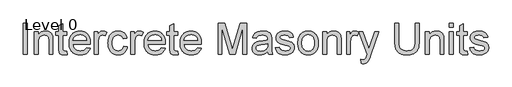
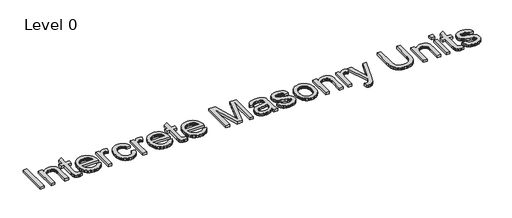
# One storey, part 10 of 14: 1 proxy.
"""IFC4 building model written with IfcOpenShell, lengths in millimetres."""

from ifc_helpers import new_model, si_unit, origin, origin_with_axes, place, context, project, spatial, polyline, outline, extrude, element, save

model = new_model("IFC4")

# Units and contexts
model_context = context("Model", 3, world=origin())
ifc_project = project(units=[si_unit("LENGTHUNIT", "METRE", prefix="MILLI")], contexts=[model_context])

# Site, building, storey
site = spatial("IfcSite", under=ifc_project)
building = spatial("IfcBuilding", under=site)
storey = spatial("IfcBuildingStorey", under=building, Name="Level 0", Elevation=0.0)

# Proxy
placement = place(None, origin())
element("IfcBuildingElementProxy", 1, Name="2000", ObjectType="2000", at=placement, inside=storey, context=model_context, shape_type="SweptSolid", body=[
    extrude(outline(polyline([(-39929.3330884, 28383.8987062), (-39929.3330884, 30341.5457651), (-39684.627206, 30341.5457651), (-39684.627206, 28383.8987062), (-39929.3330884, 28383.8987062)])), origin_with_axes(), (0.0, 0.0, 1.0), 150.0),
    extrude(outline(polyline([(-39225.8036766, 28383.8987062), (-39225.8036766, 29821.5457651), (-38981.0977943, 29821.5457651), (-38981.0977943, 29620.810471), (-38940.7267005, 29675.0269232), (-38896.0840075, 29722.0145151), (-38847.1697152, 29761.7732467), (-38793.9838237, 29794.303118), (-38736.5263329, 29819.604129), (-38674.7972428, 29837.6762798), (-38608.7965534, 29848.5195702), (-38538.5242648, 29852.1340004), (-38476.9445314, 29849.2215463), (-38417.9038604, 29840.4841842), (-38361.402252, 29825.921914), (-38307.439706, 29805.5347357), (-38258.0624082, 29780.4129526), (-38215.3165443, 29751.646868), (-38179.2021141, 29719.236482), (-38149.7191178, 29683.1817945), (-38125.5084101, 29643.5276125), (-38105.2108457, 29600.318743), (-38088.8264248, 29553.555186), (-38076.3551472, 29503.2369415), (-38066.6768384, 29410.396868), (-38063.4507354, 29266.6560592), (-38063.4507354, 28383.8987062), (-38308.1566178, 28383.8987062), (-38308.1566178, 29233.678118), (-38309.9190259, 29301.5158937), (-38315.2062501, 29360.2130445), (-38324.0182906, 29409.7695702), (-38336.3551472, 29450.185471), (-38353.1577667, 29484.2238441), (-38375.3670957, 29514.6477871), (-38402.9831343, 29541.4573), (-38436.0058825, 29564.6523827), (-38473.3002299, 29583.3667669), (-38513.7310663, 29596.7341842), (-38557.2983917, 29604.7546346), (-38604.002206, 29607.428118), (-38678.3071233, 29601.423982), (-38713.4768728, 29593.9188119), (-38747.3248163, 29583.4115739), (-38779.8509537, 29569.9022678), (-38811.0552851, 29553.3908937), (-38840.9378103, 29533.8774516), (-38869.4985295, 29511.3619415), (-38895.6546072, 29484.6495105), (-38918.3232079, 29452.5453055), (-38937.5043315, 29415.0493266), (-38953.1979781, 29372.1615739), (-38965.4041477, 29323.8820472), (-38974.1228402, 29270.2107467), (-38979.3540557, 29211.1476722), (-38981.0977943, 29146.6928239), (-38981.0977943, 28383.8987062), (-39225.8036766, 28383.8987062)])), origin_with_axes(), (0.0, 0.0, 1.0), 150.0),
    extrude(outline(polyline([(-37206.9801472, 28587.9795886), (-37176.3919119, 28376.7295886), (-37273.2944854, 28359.1652504), (-37359.4433825, 28353.310471), (-37421.90432, 28355.8495335), (-37476.8974266, 28363.466721), (-37524.4227023, 28376.1620335), (-37564.4801472, 28393.935471), (-37598.1152575, 28415.8311511), (-37626.3735295, 28440.8931915), (-37649.2549634, 28469.1215923), (-37666.759559, 28500.5163533), (-37679.7237134, 28542.6050482), (-37688.9838237, 28602.9152504), (-37694.5398898, 28681.4469599), (-37696.3919119, 28778.2001768), (-37696.3919119, 29576.8398827), (-37879.9213237, 29576.8398827), (-37879.9213237, 29821.5457651), (-37696.3919119, 29821.5457651), (-37696.3919119, 30170.9207651), (-37451.6860295, 30314.7810592), (-37451.6860295, 29821.5457651), (-37206.9801472, 29821.5457651), (-37206.9801472, 29576.8398827), (-37451.6860295, 29576.8398827), (-37451.6860295, 28785.3692945), (-37448.4599266, 28704.8362062), (-37444.4272979, 28677.6533018), (-37438.7816178, 28659.1928239), (-37421.8744487, 28633.9216842), (-37396.9617648, 28614.5053239), (-37361.6538604, 28602.138596), (-37313.5610295, 28598.0163533), (-37266.8422795, 28595.5071621), (-37206.9801472, 28587.9795886)])), origin_with_axes(), (0.0, 0.0, 1.0), 150.0),
    extrude(outline(polyline([(-35955.7301472, 28812.1340004), (-35715.8036766, 28781.5457651), (-35732.5876265, 28732.0713855), (-35752.5902115, 28685.4497173), (-35775.8114317, 28641.6807605), (-35802.2512869, 28600.7645151), (-35831.9097773, 28562.7009811), (-35864.7869027, 28527.4901585), (-35900.8826633, 28495.1320472), (-35940.197059, 28465.6266474), (-35982.5359261, 28439.3025436), (-36027.7051012, 28416.4883202), (-36075.7045842, 28397.1839774), (-36126.5343751, 28381.3895151), (-36180.1944739, 28369.1049333), (-36236.6848807, 28360.330232), (-36296.0055953, 28355.0654112), (-36358.1566178, 28353.310471), (-36436.1431757, 28356.3386764), (-36509.9925553, 28365.4232926), (-36579.7047566, 28380.5643198), (-36645.2797795, 28401.7617577), (-36706.7176242, 28429.0156065), (-36764.0182906, 28462.3258662), (-36817.1817786, 28501.6925367), (-36866.2080884, 28547.115618), (-36910.2309514, 28598.0051516), (-36948.3840994, 28653.7711787), (-36980.6675323, 28714.4136994), (-37007.0812501, 28779.9327136), (-37027.6252529, 28850.3282214), (-37042.2995406, 28925.6002228), (-37051.1041132, 29005.7487177), (-37054.0389707, 29090.7737062), (-37051.0742419, 29178.6924792), (-37042.1800553, 29261.5480629), (-37027.356411, 29339.3404572), (-37006.603309, 29412.0696621), (-36979.9207492, 29479.7356778), (-36947.3087318, 29542.338504), (-36908.7672566, 29599.878141), (-36864.2963237, 29652.3545886), (-36815.0982538, 29699.1778882), (-36762.3753678, 29739.7580812), (-36706.1276656, 29774.0951676), (-36646.3551472, 29802.1891474), (-36583.0578126, 29824.0400206), (-36516.2356619, 29839.6477871), (-36445.888695, 29849.0124471), (-36372.0169119, 29852.1340004), (-36300.5609721, 29849.0199149), (-36232.4431527, 29839.6776585), (-36167.6634537, 29824.1072311), (-36106.2218751, 29802.3086327), (-36048.118417, 29774.2818634), (-35993.3530792, 29740.0269232), (-35941.9258618, 29699.5438119), (-35893.8367648, 29652.8325298), (-35850.3179804, 29600.4755675), (-35812.6017005, 29543.0554158), (-35780.6879252, 29480.5720748), (-35754.5766545, 29413.0255445), (-35734.2678885, 29340.4158248), (-35719.761627, 29262.7429158), (-35711.0578701, 29180.0068175), (-35708.1566178, 29092.2075298), (-35709.5904413, 29026.2516474), (-36809.3330884, 29026.2516474), (-36803.9973232, 28975.9109994), (-36795.1591454, 28928.6022908), (-36782.8185548, 28884.3255215), (-36766.9755516, 28843.0806915), (-36747.6301357, 28804.8678009), (-36724.7823071, 28769.6868496), (-36698.4320659, 28737.5378377), (-36668.5794119, 28708.4207651), (-36636.0009997, 28682.5447311), (-36601.4734836, 28660.1188349), (-36564.9968636, 28641.1430766), (-36526.5711398, 28625.6174562), (-36486.1963122, 28613.5419737), (-36443.8723807, 28604.916629), (-36399.5993453, 28599.7414222), (-36353.377206, 28598.0163533), (-36285.6887869, 28601.2125849), (-36223.1382354, 28610.8012798), (-36165.7255516, 28626.7824379), (-36113.4507354, 28649.1560592), (-36066.3137869, 28678.5195702), (-36024.314706, 28715.4703974), (-35987.4534928, 28760.0085408), (-35955.7301472, 28812.1340004)]), holes=[polyline([(-36809.3330884, 29270.9575298), (-35952.8625001, 29270.9575298), (-35965.4383273, 29340.1992577), (-35985.9599266, 29400.240618), (-36014.4272979, 29451.0816107), (-36050.8404413, 29492.7222357), (-36083.0566637, 29519.6064268), (-36117.5729781, 29542.9060592), (-36154.3893843, 29562.6211327), (-36193.5058825, 29578.7516474), (-36234.9224726, 29591.2976033), (-36278.6391545, 29600.2590004), (-36324.6559284, 29605.6358386), (-36372.9727943, 29607.428118), (-36459.0171417, 29601.7077596), (-36537.9222428, 29584.5466842), (-36574.697576, 29571.6758777), (-36609.6880976, 29555.9448919), (-36642.8938076, 29537.3537269), (-36674.314706, 29515.9023827), (-36703.1367993, 29492.0538648), (-36728.5460939, 29466.2711787), (-36750.5425898, 29438.5543244), (-36769.1262869, 29408.9033018), (-36784.2971853, 29377.3181111), (-36796.0552851, 29343.7987522), (-36804.4005861, 29308.3452251), (-36809.3330884, 29270.9575298)])]), origin_with_axes(), (0.0, 0.0, 1.0), 150.0),
    extrude(outline(polyline([(-35463.4507354, 28383.8987062), (-35463.4507354, 29821.5457651), (-35249.3330884, 29821.5457651), (-35249.3330884, 29608.8619415), (-35209.0068016, 29676.8490739), (-35170.2338237, 29732.1707651), (-35133.0141545, 29774.8270151), (-35097.3477943, 29804.8178239), (-35061.6216913, 29825.5186511), (-35024.2227943, 29840.3049562), (-34985.1511031, 29849.1767393), (-34944.4066178, 29852.1340004), (-34883.7080884, 29847.4143312), (-34822.5316178, 29833.2553239), (-34760.877206, 29809.6569783), (-34698.7448531, 29776.6192945), (-34780.4727943, 29557.2442945), (-34823.4875001, 29579.1997173), (-34866.502206, 29594.8821621), (-34909.5169119, 29604.291629), (-34952.5316178, 29607.428118), (-34990.0350645, 29604.4111143), (-35025.5968751, 29595.3601033), (-35059.2170498, 29580.2750849), (-35090.8955884, 29559.1560592), (-35119.437638, 29532.6900665), (-35143.6483457, 29501.5641474), (-35163.5277115, 29465.7783018), (-35179.0757354, 29425.3325298), (-35196.4309744, 29358.5402504), (-35208.8275737, 29288.6413533), (-35216.2655332, 29215.6358386), (-35218.7448531, 29139.5237062), (-35218.7448531, 28383.8987062), (-35463.4507354, 28383.8987062)])), origin_with_axes(), (0.0, 0.0, 1.0), 150.0),
    extrude(outline(polyline([(-33628.1566178, 28903.8987062), (-33383.4507354, 28873.310471), (-33394.8839845, 28813.915078), (-33410.0660847, 28757.8428698), (-33428.997036, 28705.0938464), (-33451.6768384, 28655.6680077), (-33478.1054919, 28609.5653538), (-33508.2829965, 28566.7858846), (-33542.2093522, 28527.3296001), (-33579.884559, 28491.1965004), (-33620.5543659, 28458.8794622), (-33663.4645222, 28430.8713625), (-33708.6150277, 28407.1722012), (-33756.0058825, 28387.7819783), (-33805.6370865, 28372.7006938), (-33857.5086398, 28361.9283478), (-33911.6205424, 28355.4649402), (-33967.9727943, 28353.310471), (-34038.3683021, 28356.3162729), (-34105.2165902, 28365.3336787), (-34168.5176587, 28380.3626883), (-34228.2715075, 28401.4033018), (-34284.4781366, 28428.4555192), (-34337.1375461, 28461.5193404), (-34386.2497359, 28500.5947655), (-34431.814706, 28545.6817945), (-34472.8691063, 28596.3846323), (-34508.4495865, 28652.3074838), (-34538.5561467, 28713.4503492), (-34563.1887869, 28779.8132283), (-34582.347507, 28851.3961212), (-34596.0323071, 28928.1990279), (-34604.2431872, 29010.2219484), (-34606.9801472, 29097.4648827), (-34602.3052851, 29209.9752228), (-34588.2806987, 29315.2268312), (-34564.906388, 29413.2197081), (-34532.1823531, 29503.9538533), (-34512.2581803, 29546.1433639), (-34489.884559, 29585.6071162), (-34465.0614891, 29622.3451102), (-34437.7889707, 29656.357346), (-34408.0670038, 29687.6438234), (-34375.8955884, 29716.2045426), (-34341.2747244, 29742.0395036), (-34304.2044119, 29765.1487062), (-34225.9564799, 29803.2047724), (-34144.392831, 29830.3876768), (-34059.5134652, 29846.6974195), (-33971.3183825, 29852.1340004), (-33915.7390511, 29850.2670426), (-33862.7510571, 29844.6661695), (-33812.3544004, 29835.3313809), (-33764.549081, 29822.2626768), (-33719.3350989, 29805.4600573), (-33676.7124542, 29784.9235224), (-33636.6811467, 29760.6530721), (-33599.2411766, 29732.6487062), (-33564.7211284, 29701.2091382), (-33533.4495865, 29666.6330812), (-33505.4265511, 29628.9205353), (-33480.6520222, 29588.0715004), (-33459.1259997, 29544.0859765), (-33440.8484836, 29496.9639636), (-33425.8194739, 29446.7054618), (-33414.0389707, 29393.310471), (-33658.7448531, 29362.7222357), (-33677.8475645, 29419.8810132), (-33703.1336398, 29469.482346), (-33734.6030792, 29511.5262338), (-33772.2558825, 29546.0126768), (-33815.1361674, 29572.8819323), (-33862.2880516, 29592.0742577), (-33913.7115351, 29603.5896529), (-33969.4066178, 29607.428118), (-34011.9993912, 29605.5387568), (-34052.5534468, 29599.8706732), (-34091.0687846, 29590.4238671), (-34127.5454045, 29577.1983386), (-34161.9833067, 29560.1940877), (-34194.3824909, 29539.4111143), (-34224.7429574, 29514.8494186), (-34253.064706, 29486.5090004), (-34278.6606964, 29454.0836787), (-34300.843888, 29417.2672724), (-34319.6142809, 29376.0597816), (-34334.9718751, 29330.4612062), (-34346.9166706, 29280.4715463), (-34355.4486674, 29226.0908018), (-34360.5678655, 29167.3189728), (-34362.2742648, 29104.1560592), (-34360.6052046, 29039.9961902), (-34355.598024, 28980.3842301), (-34347.252723, 28925.3201791), (-34335.5693016, 28874.8040371), (-34320.5477598, 28828.8358041), (-34302.1880976, 28787.4154801), (-34280.4903149, 28750.5430652), (-34255.4544119, 28718.2185592), (-34227.7226219, 28690.0461672), (-34197.9371784, 28665.6300941), (-34166.0980815, 28644.97034), (-34132.205331, 28628.0669048), (-34096.2589271, 28614.9197885), (-34058.2588696, 28605.5289912), (-34018.2051587, 28599.8945128), (-33976.0977943, 28598.0163533), (-33909.8880057, 28602.7061511), (-33849.3836398, 28616.7755445), (-33794.5846968, 28640.2245335), (-33745.4911766, 28673.053118), (-33723.4274703, 28693.0743726), (-33703.4771601, 28715.619754), (-33669.9167281, 28768.2828974), (-33644.8098807, 28831.0425482), (-33628.1566178, 28903.8987062)])), origin_with_axes(), (0.0, 0.0, 1.0), 150.0),
    extrude(outline(polyline([(-33169.3330884, 28383.8987062), (-33169.3330884, 29821.5457651), (-32955.2154413, 29821.5457651), (-32955.2154413, 29608.8619415), (-32914.8891545, 29676.8490739), (-32876.1161766, 29732.1707651), (-32838.8965075, 29774.8270151), (-32803.2301472, 29804.8178239), (-32767.5040443, 29825.5186511), (-32730.1051472, 29840.3049562), (-32691.033456, 29849.1767393), (-32650.2889707, 29852.1340004), (-32589.5904413, 29847.4143312), (-32528.4139707, 29833.2553239), (-32466.759559, 29809.6569783), (-32404.627206, 29776.6192945), (-32486.3551472, 29557.2442945), (-32529.3698531, 29579.1997173), (-32572.384559, 29594.8821621), (-32615.3992648, 29604.291629), (-32658.4139707, 29607.428118), (-32695.9174174, 29604.4111143), (-32731.4792281, 29595.3601033), (-32765.0994027, 29580.2750849), (-32796.7779413, 29559.1560592), (-32825.3199909, 29532.6900665), (-32849.5306987, 29501.5641474), (-32869.4100645, 29465.7783018), (-32884.9580884, 29425.3325298), (-32902.3133273, 29358.5402504), (-32914.7099266, 29288.6413533), (-32922.1478862, 29215.6358386), (-32924.627206, 29139.5237062), (-32924.627206, 28383.8987062), (-33169.3330884, 28383.8987062)])), origin_with_axes(), (0.0, 0.0, 1.0), 150.0),
    extrude(outline(polyline([(-31245.1419119, 28812.1340004), (-31005.2154413, 28781.5457651), (-31021.9993912, 28732.0713855), (-31042.0019762, 28685.4497173), (-31065.2231964, 28641.6807605), (-31091.6630516, 28600.7645151), (-31121.321542, 28562.7009811), (-31154.1986674, 28527.4901585), (-31190.294428, 28495.1320472), (-31229.6088237, 28465.6266474), (-31271.9476909, 28439.3025436), (-31317.1168659, 28416.4883202), (-31365.1163489, 28397.1839774), (-31415.9461398, 28381.3895151), (-31469.6062386, 28369.1049333), (-31526.0966454, 28360.330232), (-31585.41736, 28355.0654112), (-31647.5683825, 28353.310471), (-31725.5549404, 28356.3386764), (-31799.40432, 28365.4232926), (-31869.1165213, 28380.5643198), (-31934.6915443, 28401.7617577), (-31996.1293889, 28429.0156065), (-32053.4300553, 28462.3258662), (-32106.5935433, 28501.6925367), (-32155.6198531, 28547.115618), (-32199.6427161, 28598.0051516), (-32237.7958641, 28653.7711787), (-32270.079297, 28714.4136994), (-32296.4930148, 28779.9327136), (-32317.0370176, 28850.3282214), (-32331.7113053, 28925.6002228), (-32340.5158779, 29005.7487177), (-32343.4507354, 29090.7737062), (-32340.4860066, 29178.6924792), (-32331.59182, 29261.5480629), (-32316.7681757, 29339.3404572), (-32296.0150737, 29412.0696621), (-32269.3325139, 29479.7356778), (-32236.7204965, 29542.338504), (-32198.1790213, 29599.878141), (-32153.7080884, 29652.3545886), (-32104.5100185, 29699.1778882), (-32051.7871325, 29739.7580812), (-31995.5394303, 29774.0951676), (-31935.7669119, 29802.1891474), (-31872.4695773, 29824.0400206), (-31805.6474266, 29839.6477871), (-31735.3004597, 29849.0124471), (-31661.4286766, 29852.1340004), (-31589.9727368, 29849.0199149), (-31521.8549174, 29839.6776585), (-31457.0752184, 29824.1072311), (-31395.6336398, 29802.3086327), (-31337.5301817, 29774.2818634), (-31282.7648439, 29740.0269232), (-31231.3376265, 29699.5438119), (-31183.2485295, 29652.8325298), (-31139.7297451, 29600.4755675), (-31102.0134652, 29543.0554158), (-31070.0996899, 29480.5720748), (-31043.9884193, 29413.0255445), (-31023.6796532, 29340.4158248), (-31009.1733917, 29262.7429158), (-31000.4696348, 29180.0068175), (-30997.5683825, 29092.2075298), (-30999.002206, 29026.2516474), (-32098.7448531, 29026.2516474), (-32093.4090879, 28975.9109994), (-32084.5709101, 28928.6022908), (-32072.2303195, 28884.3255215), (-32056.3873163, 28843.0806915), (-32037.0419004, 28804.8678009), (-32014.1940718, 28769.6868496), (-31987.8438306, 28737.5378377), (-31957.9911766, 28708.4207651), (-31925.4127644, 28682.5447311), (-31890.8852483, 28660.1188349), (-31854.4086284, 28641.1430766), (-31815.9829045, 28625.6174562), (-31775.6080769, 28613.5419737), (-31733.2841454, 28604.916629), (-31689.01111, 28599.7414222), (-31642.7889707, 28598.0163533), (-31575.1005516, 28601.2125849), (-31512.5500001, 28610.8012798), (-31455.1373163, 28626.7824379), (-31402.8625001, 28649.1560592), (-31355.7255516, 28678.5195702), (-31313.7264707, 28715.4703974), (-31276.8652575, 28760.0085408), (-31245.1419119, 28812.1340004)]), holes=[polyline([(-32098.7448531, 29270.9575298), (-31242.2742648, 29270.9575298), (-31254.850092, 29340.1992577), (-31275.3716913, 29400.240618), (-31303.8390626, 29451.0816107), (-31340.252206, 29492.7222357), (-31372.4684284, 29519.6064268), (-31406.9847428, 29542.9060592), (-31443.801149, 29562.6211327), (-31482.9176472, 29578.7516474), (-31524.3342373, 29591.2976033), (-31568.0509193, 29600.2590004), (-31614.0676932, 29605.6358386), (-31662.384559, 29607.428118), (-31748.4289064, 29601.7077596), (-31827.3340075, 29584.5466842), (-31864.1093407, 29571.6758777), (-31899.0998623, 29555.9448919), (-31932.3055723, 29537.3537269), (-31963.7264707, 29515.9023827), (-31992.548564, 29492.0538648), (-32017.9578586, 29466.2711787), (-32039.9543545, 29438.5543244), (-32058.5380516, 29408.9033018), (-32073.70895, 29377.3181111), (-32085.4670498, 29343.7987522), (-32093.8123508, 29308.3452251), (-32098.7448531, 29270.9575298)])]), origin_with_axes(), (0.0, 0.0, 1.0), 150.0),
    extrude(outline(polyline([(-30232.8625001, 28587.9795886), (-30202.2742648, 28376.7295886), (-30299.1768384, 28359.1652504), (-30385.3257354, 28353.310471), (-30447.7866729, 28355.8495335), (-30502.7797795, 28363.466721), (-30550.3050553, 28376.1620335), (-30590.3625001, 28393.935471), (-30623.9976104, 28415.8311511), (-30652.2558825, 28440.8931915), (-30675.1373163, 28469.1215923), (-30692.6419119, 28500.5163533), (-30705.6060663, 28542.6050482), (-30714.8661766, 28602.9152504), (-30720.4222428, 28681.4469599), (-30722.2742648, 28778.2001768), (-30722.2742648, 29576.8398827), (-30905.8036766, 29576.8398827), (-30905.8036766, 29821.5457651), (-30722.2742648, 29821.5457651), (-30722.2742648, 30170.9207651), (-30477.5683825, 30314.7810592), (-30477.5683825, 29821.5457651), (-30232.8625001, 29821.5457651), (-30232.8625001, 29576.8398827), (-30477.5683825, 29576.8398827), (-30477.5683825, 28785.3692945), (-30474.3422795, 28704.8362062), (-30470.3096509, 28677.6533018), (-30464.6639707, 28659.1928239), (-30447.7568016, 28633.9216842), (-30422.8441178, 28614.5053239), (-30387.5362134, 28602.138596), (-30339.4433825, 28598.0163533), (-30292.7246325, 28595.5071621), (-30232.8625001, 28587.9795886)])), origin_with_axes(), (0.0, 0.0, 1.0), 150.0),
    extrude(outline(polyline([(-28981.6125001, 28812.1340004), (-28741.6860295, 28781.5457651), (-28758.4699795, 28732.0713855), (-28778.4725645, 28685.4497173), (-28801.6937846, 28641.6807605), (-28828.1336398, 28600.7645151), (-28857.7921302, 28562.7009811), (-28890.6692557, 28527.4901585), (-28926.7650162, 28495.1320472), (-28966.0794119, 28465.6266474), (-29008.4182791, 28439.3025436), (-29053.5874542, 28416.4883202), (-29101.5869372, 28397.1839774), (-29152.4167281, 28381.3895151), (-29206.0768269, 28369.1049333), (-29262.5672336, 28360.330232), (-29321.8879482, 28355.0654112), (-29384.0389707, 28353.310471), (-29462.0255286, 28356.3386764), (-29535.8749082, 28365.4232926), (-29605.5871095, 28380.5643198), (-29671.1621325, 28401.7617577), (-29732.5999772, 28429.0156065), (-29789.9006435, 28462.3258662), (-29843.0641316, 28501.6925367), (-29892.0904413, 28547.115618), (-29936.1133044, 28598.0051516), (-29974.2664523, 28653.7711787), (-30006.5498852, 28714.4136994), (-30032.9636031, 28779.9327136), (-30053.5076058, 28850.3282214), (-30068.1818935, 28925.6002228), (-30076.9864661, 29005.7487177), (-30079.9213237, 29090.7737062), (-30076.9565948, 29178.6924792), (-30068.0624082, 29261.5480629), (-30053.2387639, 29339.3404572), (-30032.4856619, 29412.0696621), (-30005.8031022, 29479.7356778), (-29973.1910847, 29542.338504), (-29934.6496095, 29599.878141), (-29890.1786766, 29652.3545886), (-29840.9806068, 29699.1778882), (-29788.2577207, 29739.7580812), (-29732.0100185, 29774.0951676), (-29672.2375001, 29802.1891474), (-29608.9401656, 29824.0400206), (-29542.1180148, 29839.6477871), (-29471.7710479, 29849.0124471), (-29397.8992648, 29852.1340004), (-29326.443325, 29849.0199149), (-29258.3255057, 29839.6776585), (-29193.5458067, 29824.1072311), (-29132.1042281, 29802.3086327), (-29074.0007699, 29774.2818634), (-29019.2354321, 29740.0269232), (-28967.8082148, 29699.5438119), (-28919.7191178, 29652.8325298), (-28876.2003333, 29600.4755675), (-28838.4840534, 29543.0554158), (-28806.5702782, 29480.5720748), (-28780.4590075, 29413.0255445), (-28760.1502414, 29340.4158248), (-28745.6439799, 29262.7429158), (-28736.940223, 29180.0068175), (-28734.0389707, 29092.2075298), (-28735.4727943, 29026.2516474), (-29835.2154413, 29026.2516474), (-29829.8796761, 28975.9109994), (-29821.0414983, 28928.6022908), (-29808.7009078, 28884.3255215), (-29792.8579045, 28843.0806915), (-29773.5124886, 28804.8678009), (-29750.6646601, 28769.6868496), (-29724.3144188, 28737.5378377), (-29694.4617648, 28708.4207651), (-29661.8833526, 28682.5447311), (-29627.3558365, 28660.1188349), (-29590.8792166, 28641.1430766), (-29552.4534928, 28625.6174562), (-29512.0786651, 28613.5419737), (-29469.7547336, 28604.916629), (-29425.4816982, 28599.7414222), (-29379.259559, 28598.0163533), (-29311.5711398, 28601.2125849), (-29249.0205884, 28610.8012798), (-29191.6079045, 28626.7824379), (-29139.3330884, 28649.1560592), (-29092.1961398, 28678.5195702), (-29050.197059, 28715.4703974), (-29013.3358457, 28760.0085408), (-28981.6125001, 28812.1340004)]), holes=[polyline([(-29835.2154413, 29270.9575298), (-28978.7448531, 29270.9575298), (-28991.3206803, 29340.1992577), (-29011.8422795, 29400.240618), (-29040.3096509, 29451.0816107), (-29076.7227943, 29492.7222357), (-29108.9390167, 29519.6064268), (-29143.455331, 29542.9060592), (-29180.2717373, 29562.6211327), (-29219.3882354, 29578.7516474), (-29260.8048255, 29591.2976033), (-29304.5215075, 29600.2590004), (-29350.5382814, 29605.6358386), (-29398.8551472, 29607.428118), (-29484.8994946, 29601.7077596), (-29563.8045957, 29584.5466842), (-29600.5799289, 29571.6758777), (-29635.5704505, 29555.9448919), (-29668.7761605, 29537.3537269), (-29700.197059, 29515.9023827), (-29729.0191523, 29492.0538648), (-29754.4284468, 29466.2711787), (-29776.4249427, 29438.5543244), (-29795.0086398, 29408.9033018), (-29810.1795383, 29377.3181111), (-29821.937638, 29343.7987522), (-29830.282939, 29308.3452251), (-29835.2154413, 29270.9575298)])]), origin_with_axes(), (0.0, 0.0, 1.0), 150.0),
    extrude(outline(polyline([(-27694.0389707, 28383.8987062), (-27694.0389707, 30341.5457651), (-27272.9727943, 30341.5457651), (-26872.4580884, 28961.7295886), (-26791.6860295, 28673.5310592), (-26704.2227943, 28985.6266474), (-26310.3992648, 30341.5457651), (-25889.3330884, 30341.5457651), (-25889.3330884, 28383.8987062), (-26134.0389707, 28383.8987062), (-26134.0389707, 30096.8398827), (-26625.8404413, 28383.8987062), (-26957.5316178, 28383.8987062), (-27449.3330884, 30096.8398827), (-27449.3330884, 28383.8987062), (-27694.0389707, 28383.8987062)])), origin_with_axes(), (0.0, 0.0, 1.0), 150.0),
    extrude(outline(polyline([(-24574.0389707, 28567.428118), (-24632.0640167, 28512.9726952), (-24690.955331, 28467.1799562), (-24750.7129137, 28430.0499011), (-24811.3367648, 28401.5825298), (-24873.5139248, 28380.463504), (-24937.931434, 28365.3784857), (-25004.5892924, 28356.3274746), (-25073.4875001, 28353.310471), (-25129.6418545, 28355.1251539), (-25182.4431527, 28360.5692026), (-25231.8913949, 28369.6426171), (-25277.986581, 28382.3453974), (-25320.7287111, 28398.6775436), (-25360.1177851, 28418.6390555), (-25396.153803, 28442.2299333), (-25428.8367648, 28469.4501768), (-25457.9052966, 28499.4932605), (-25483.098024, 28531.5526585), (-25504.4149473, 28565.6283708), (-25521.8560663, 28601.7203974), (-25535.4213811, 28639.8287384), (-25545.1108917, 28679.9533937), (-25550.924598, 28722.0943634), (-25552.8625001, 28766.2516474), (-25549.9351104, 28818.1381364), (-25541.1529413, 28867.6946621), (-25526.5159928, 28914.9212246), (-25506.0242648, 28959.8178239), (-25480.7680608, 29001.3987062), (-25451.837684, 29038.678118), (-25419.2331343, 29071.6560592), (-25382.9544119, 29100.3325298), (-25343.6586858, 29125.2452136), (-25302.0031251, 29146.9317945), (-25257.9877299, 29165.3922724), (-25211.6125001, 29180.6266474), (-25123.5518384, 29199.3858386), (-24999.884559, 29217.428118), (-24865.2843751, 29235.9483386), (-24749.6823531, 29256.1413533), (-24653.0784928, 29278.0071621), (-24575.4727943, 29301.5457651), (-24574.0389707, 29356.0310592), (-24578.2508273, 29415.3555077), (-24590.8863972, 29465.240618), (-24611.9456803, 29505.6863901), (-24641.4286766, 29536.6928239), (-24665.519899, 29553.2714085), (-24692.3891545, 29567.6395151), (-24754.4617648, 29589.7442945), (-24827.6465075, 29603.0071621), (-24911.9433825, 29607.428118), (-24990.3257354, 29604.4857926), (-25057.7154413, 29595.6588165), (-25114.1125001, 29580.9471897), (-25159.5169119, 29560.3509121), (-25196.826195, 29532.2569323), (-25228.9378678, 29495.0521989), (-25255.8519303, 29448.7367118), (-25277.5683825, 29393.310471), (-25522.2742648, 29423.8987062), (-25503.6494946, 29494.3950298), (-25479.7972428, 29557.7222357), (-25450.7175093, 29613.8803239), (-25416.4102943, 29662.8692945), (-25375.396967, 29705.6749011), (-25326.1988972, 29743.2828974), (-25268.8160847, 29775.6932835), (-25203.2485295, 29802.9060592), (-25130.8255057, 29824.4432835), (-25052.8762869, 29839.8270151), (-24969.4008733, 29849.057254), (-24880.3992648, 29852.1340004), (-24793.3990351, 29849.4157099), (-24714.9718751, 29841.2608386), (-24645.1177851, 29827.6693864), (-24583.8367648, 29808.6413533), (-24530.621002, 29785.5060132), (-24484.962684, 29759.5926401), (-24446.8618108, 29730.9012338), (-24416.3183825, 29699.4317945), (-24391.5550553, 29664.4076676), (-24370.7944854, 29625.0521989), (-24354.0366729, 29581.3653882), (-24341.2816178, 29533.3472357), (-24332.3202207, 29448.7516474), (-24329.3330884, 29319.2295886), (-24329.3330884, 29014.7810592), (-24326.2264707, 28749.5834489), (-24316.9066178, 28589.6523827), (-24298.5058825, 28484.5650665), (-24284.8248163, 28433.6792669), (-24268.1566178, 28383.8987062), (-24512.8625001, 28383.8987062), (-24534.6088237, 28424.7626768), (-24552.0536766, 28468.9722357), (-24565.197059, 28516.5273827), (-24574.0389707, 28567.428118)]), holes=[polyline([(-24574.0389707, 29056.8398827), (-24648.0003678, 29035.6611143), (-24738.4507354, 29016.0953974), (-24845.3900737, 28998.142732), (-24968.8183825, 28981.803118), (-25095.7715075, 28963.0439268), (-25179.3514707, 28942.1340004), (-25208.5208182, 28929.8568864), (-25234.1354781, 28915.0108386), (-25256.1954505, 28897.595857), (-25274.7007354, 28877.6119415), (-25289.337684, 28855.776004), (-25299.7926472, 28832.8049562), (-25306.0656251, 28808.6987982), (-25308.1566178, 28783.4575298), (-25303.6012409, 28745.4313349), (-25289.9351104, 28710.6909857), (-25267.1582262, 28679.236482), (-25235.2705884, 28651.0678239), (-25194.5709101, 28627.8578055), (-25145.3579045, 28611.279221), (-25087.6315718, 28601.3320702), (-25021.3919119, 28598.0163533), (-24953.7632354, 28601.6755904), (-24889.9580884, 28612.6533018), (-24829.9764707, 28630.9494875), (-24773.8183825, 28656.5641474), (-24723.1566178, 28687.3764176), (-24679.6639707, 28721.2654342), (-24643.3404413, 28758.2311971), (-24614.1860295, 28798.2737062), (-24597.2489891, 28834.1192945), (-24585.1511031, 28877.6119415), (-24577.8923715, 28928.7516474), (-24575.4727943, 28987.5384121), (-24574.0389707, 29056.8398827)])]), origin_with_axes(), (0.0, 0.0, 1.0), 150.0),
    extrude(outline(polyline([(-24084.627206, 28812.1340004), (-23839.9213237, 28842.7222357), (-23825.1350185, 28786.9226033), (-23801.3275737, 28738.053118), (-23768.4989891, 28696.1137798), (-23726.6492648, 28661.1045886), (-23675.6589156, 28633.5034857), (-23615.408456, 28613.7884121), (-23545.8978862, 28601.959368), (-23467.127206, 28598.0163533), (-23388.4461398, 28601.6307835), (-23320.6382354, 28612.4740739), (-23263.7034928, 28630.5462246), (-23217.6419119, 28655.8472357), (-23182.0950369, 28686.0172724), (-23156.7044119, 28718.6965004), (-23141.4700369, 28753.8849195), (-23136.3919119, 28791.5825298), (-23141.4999082, 28824.6202136), (-23156.8238972, 28853.9538533), (-23182.3638788, 28879.5834489), (-23218.1198531, 28901.5090004), (-23255.3693935, 28916.0862062), (-23309.7650737, 28932.5751768), (-23469.9948531, 28971.2884121), (-23693.3128678, 29035.8702136), (-23775.6681068, 29064.6213625), (-23838.4875001, 29091.0126768), (-23888.3278034, 29118.6585868), (-23931.7457722, 29151.1735224), (-23968.7414064, 29188.5574838), (-23999.314706, 29230.810471), (-24023.2565718, 29276.6629526), (-24040.3579045, 29324.8453974), (-24050.6187042, 29375.3578055), (-24054.0389707, 29428.2001768), (-24051.290809, 29476.5170426), (-24043.0463237, 29523.0117577), (-24029.3055148, 29567.6843221), (-24010.0683825, 29610.5347357), (-23986.0817097, 29650.6967301), (-23958.0922795, 29687.3040371), (-23926.100092, 29720.3566566), (-23890.1051472, 29749.8545886), (-23858.8746784, 29770.3313809), (-23822.5362134, 29789.224993), (-23781.089752, 29806.535425), (-23734.5352943, 29822.2626768), (-23684.5456343, 29835.3313809), (-23632.7935663, 29844.6661695), (-23579.2790902, 29850.2670426), (-23524.002206, 29852.1340004), (-23441.7664523, 29849.1319323), (-23364.728309, 29840.1257283), (-23292.8877759, 29825.1153882), (-23226.2448531, 29804.1009121), (-23166.3827207, 29777.963504), (-23114.884559, 29747.584368), (-23071.7503678, 29712.963504), (-23036.9801472, 29674.1009121), (-23008.7816178, 29629.6374471), (-22985.3625001, 29578.2139636), (-22966.7227943, 29519.8304618), (-22952.8625001, 29454.4869415), (-23197.5683825, 29423.8987062), (-23209.2331343, 29464.7776125), (-23228.455331, 29500.9069783), (-23255.2349726, 29532.2868037), (-23289.572059, 29558.9170886), (-23331.6159468, 29580.140664), (-23381.5159928, 29595.3003607), (-23439.2721968, 29604.3961787), (-23504.884559, 29607.428118), (-23580.9966913, 29604.5305996), (-23645.3992648, 29595.8380445), (-23698.0922795, 29581.3504526), (-23739.0757354, 29561.0678239), (-23769.8133273, 29536.9317945), (-23791.7687501, 29510.8840004), (-23804.9420038, 29482.9244415), (-23809.3330884, 29453.053118), (-23807.5109376, 29433.7263717), (-23802.0444854, 29415.4152504), (-23792.9337318, 29398.119754), (-23780.1786766, 29381.8398827), (-23763.5403494, 29366.0976952), (-23742.7797795, 29351.8490739), (-23688.8919119, 29327.8325298), (-23478.1198531, 29275.7369415), (-23261.9112134, 29211.8123092), (-23181.2735755, 29184.5995335), (-23118.947059, 29160.553118), (-23068.6437501, 29135.5508202), (-23024.0757354, 29105.4703974), (-22985.2430148, 29070.3118496), (-22952.1455884, 29030.0751768), (-22925.6945314, 28984.7006364), (-22906.8009193, 28934.1284857), (-22895.464752, 28878.3587246), (-22891.6860295, 28817.3913533), (-22896.1219211, 28756.1551401), (-22909.4295957, 28696.7112062), (-22931.6090534, 28639.0595518), (-22962.6602943, 28583.2001768), (-23002.0755057, 28531.3584948), (-23049.3468751, 28485.7599195), (-23104.4744027, 28446.4044507), (-23167.4580884, 28413.2920886), (-23236.580331, 28387.0501309), (-23310.1235295, 28368.3058754), (-23388.087684, 28357.0593221), (-23470.4727943, 28353.310471), (-23538.4076518, 28355.117686), (-23602.1754597, 28360.5393312), (-23661.776218, 28369.5754066), (-23717.2099266, 28382.2259121), (-23768.4765856, 28398.4908478), (-23815.576195, 28418.3702136), (-23858.5087547, 28441.8640096), (-23897.2742648, 28468.9722357), (-23932.2983917, 28499.6351493), (-23964.0068016, 28533.7930077), (-23992.3994946, 28571.445811), (-24017.4764707, 28612.5935592), (-24039.2377299, 28657.2362522), (-24057.6832722, 28705.3738901), (-24072.8130976, 28757.0064728), (-24084.627206, 28812.1340004)])), origin_with_axes(), (0.0, 0.0, 1.0), 150.0),
    extrude(outline(polyline([(-22677.5683825, 29102.7222357), (-22674.2601334, 29199.0348505), (-22664.3353862, 29288.9101952), (-22647.7941408, 29372.3482697), (-22624.6363972, 29449.3490739), (-22594.8621555, 29519.9126079), (-22558.4714156, 29584.0388717), (-22515.4641775, 29641.7278653), (-22465.8404413, 29692.9795886), (-22420.4210939, 29730.2814039), (-22372.5821693, 29762.6096437), (-22322.3236674, 29789.9643083), (-22269.6455884, 29812.3453974), (-22214.5479321, 29829.7529112), (-22157.0306987, 29842.1868496), (-22097.093888, 29849.6472127), (-22034.7375001, 29852.1340004), (-21965.6189914, 29849.1057949), (-21899.7340534, 29840.0211787), (-21837.0826863, 29824.8801516), (-21777.6648898, 29803.6827136), (-21721.4806642, 29776.4288648), (-21668.5300093, 29743.1186051), (-21618.8129252, 29703.7519346), (-21572.3294119, 29658.3288533), (-21530.2668545, 29607.5662729), (-21493.812638, 29552.1811051), (-21462.9667625, 29492.1733501), (-21437.7292281, 29427.5430077), (-21418.1000346, 29358.290078), (-21404.0791821, 29284.414561), (-21395.6666706, 29205.9164567), (-21392.8625001, 29122.7957651), (-21397.8211398, 28991.8100114), (-21412.697059, 28875.5806915), (-21423.8539983, 28822.9996943), (-21437.4902575, 28774.1078055), (-21453.6058365, 28728.9050252), (-21472.2007354, 28687.3913533), (-21516.3953586, 28612.4890096), (-21569.6409928, 28546.4584489), (-21631.937638, 28489.2996713), (-21703.2852943, 28441.0126768), (-21780.9059284, 28402.6429618), (-21862.0215075, 28375.2360224), (-21946.6320314, 28358.7918588), (-22034.7375001, 28353.310471), (-22104.9463122, 28356.3274746), (-22171.7124542, 28365.3784857), (-22235.0359261, 28380.463504), (-22294.9167281, 28401.5825298), (-22351.35486, 28428.7355629), (-22404.3503218, 28461.9226033), (-22453.9031136, 28501.1436511), (-22500.0132354, 28546.3987062), (-22541.627723, 28597.3293129), (-22577.6936123, 28653.5770151), (-22608.2109032, 28715.1418129), (-22633.1795957, 28782.0237062), (-22652.5996899, 28854.2226952), (-22666.4711858, 28931.7387798), (-22674.7940833, 29014.5719599), (-22677.5683825, 29102.7222357)]), holes=[polyline([(-22432.8625001, 29103.2001768), (-22431.0926242, 29041.8631479), (-22425.7829965, 28984.5064728), (-22416.9336169, 28931.1301516), (-22404.5444854, 28881.7341842), (-22388.6156022, 28836.3185707), (-22369.146967, 28794.883311), (-22346.1385801, 28757.4284052), (-22319.5904413, 28723.9538533), (-22290.3613512, 28694.4372517), (-22259.3101104, 28668.8561971), (-22226.4367189, 28647.2106892), (-22191.7411766, 28629.5007283), (-22155.2234836, 28615.7263142), (-22116.8836398, 28605.8874471), (-22076.7216454, 28599.9841267), (-22034.7375001, 28598.0163533), (-21992.9773898, 28599.9953285), (-21953.009559, 28605.932254), (-21914.8340075, 28615.82713), (-21878.4507354, 28629.6799562), (-21843.8597428, 28647.4907329), (-21811.0610295, 28669.2594599), (-21780.0545957, 28694.9861373), (-21750.8404413, 28724.6707651), (-21724.2923025, 28758.410425), (-21701.2839156, 28796.3021989), (-21681.8152805, 28838.3460868), (-21665.8863972, 28884.5420886), (-21653.4972658, 28934.8902044), (-21644.6478862, 28989.3904342), (-21639.3382584, 29048.0427779), (-21637.5683825, 29110.8472357), (-21639.3494602, 29170.1679503), (-21644.6926932, 29225.7771529), (-21653.5980815, 29277.6748437), (-21666.0656251, 29325.8610224), (-21682.0953241, 29370.3356892), (-21701.6871784, 29411.0988441), (-21724.8411881, 29448.150487), (-21751.5573531, 29481.490618), (-21780.9171302, 29511.0072196), (-21812.0019762, 29536.5882743), (-21844.8118912, 29558.2337821), (-21879.3468751, 29575.943743), (-21915.606928, 29589.7181571), (-21953.5920498, 29599.5570243), (-21993.3022405, 29605.4603446), (-22034.7375001, 29607.428118), (-22076.7216454, 29605.4678124), (-22116.8836398, 29599.5868956), (-22155.2234836, 29589.7853675), (-22191.7411766, 29576.0632283), (-22226.4367189, 29558.4204778), (-22259.3101104, 29536.8571162), (-22290.3613512, 29511.3731433), (-22319.5904413, 29481.9685592), (-22346.1385801, 29448.6060247), (-22369.146967, 29411.2482007), (-22388.6156022, 29369.8950872), (-22404.5444854, 29324.5466842), (-22416.9336169, 29275.2029916), (-22425.7829965, 29221.8640096), (-22431.0926242, 29164.529738), (-22432.8625001, 29103.2001768)])]), origin_with_axes(), (0.0, 0.0, 1.0), 150.0),
    extrude(outline(polyline([(-21117.5683825, 28383.8987062), (-21117.5683825, 29821.5457651), (-20872.8625001, 29821.5457651), (-20872.8625001, 29620.810471), (-20832.4914064, 29675.0269232), (-20787.8487134, 29722.0145151), (-20738.9344211, 29761.7732467), (-20685.7485295, 29794.303118), (-20628.2910387, 29819.604129), (-20566.5619487, 29837.6762798), (-20500.5612593, 29848.5195702), (-20430.2889707, 29852.1340004), (-20368.7092373, 29849.2215463), (-20309.6685663, 29840.4841842), (-20253.1669579, 29825.921914), (-20199.2044119, 29805.5347357), (-20149.8271141, 29780.4129526), (-20107.0812501, 29751.646868), (-20070.96682, 29719.236482), (-20041.4838237, 29683.1817945), (-20017.2731159, 29643.5276125), (-19996.9755516, 29600.318743), (-19980.5911307, 29553.555186), (-19968.1198531, 29503.2369415), (-19958.4415443, 29410.396868), (-19955.2154413, 29266.6560592), (-19955.2154413, 28383.8987062), (-20199.9213237, 28383.8987062), (-20199.9213237, 29233.678118), (-20201.6837318, 29301.5158937), (-20206.970956, 29360.2130445), (-20215.7829965, 29409.7695702), (-20228.1198531, 29450.185471), (-20244.9224726, 29484.2238441), (-20267.1318016, 29514.6477871), (-20294.7478402, 29541.4573), (-20327.7705884, 29564.6523827), (-20365.0649358, 29583.3667669), (-20405.4957722, 29596.7341842), (-20449.0630976, 29604.7546346), (-20495.7669119, 29607.428118), (-20570.0718292, 29601.423982), (-20605.2415787, 29593.9188119), (-20639.0895222, 29583.4115739), (-20671.6156596, 29569.9022678), (-20702.8199909, 29553.3908937), (-20732.7025162, 29533.8774516), (-20761.2632354, 29511.3619415), (-20787.4193131, 29484.6495105), (-20810.0879137, 29452.5453055), (-20829.2690374, 29415.0493266), (-20844.962684, 29372.1615739), (-20857.1688535, 29323.8820472), (-20865.8875461, 29270.2107467), (-20871.1187616, 29211.1476722), (-20872.8625001, 29146.6928239), (-20872.8625001, 28383.8987062), (-21117.5683825, 28383.8987062)])), origin_with_axes(), (0.0, 0.0, 1.0), 150.0),
    extrude(outline(polyline([(-19618.7448531, 28383.8987062), (-19618.7448531, 29821.5457651), (-19404.627206, 29821.5457651), (-19404.627206, 29608.8619415), (-19364.3009193, 29676.8490739), (-19325.5279413, 29732.1707651), (-19288.3082722, 29774.8270151), (-19252.6419119, 29804.8178239), (-19216.915809, 29825.5186511), (-19179.5169119, 29840.3049562), (-19140.4452207, 29849.1767393), (-19099.7007354, 29852.1340004), (-19039.002206, 29847.4143312), (-18977.8257354, 29833.2553239), (-18916.1713237, 29809.6569783), (-18854.0389707, 29776.6192945), (-18935.7669119, 29557.2442945), (-18978.7816178, 29579.1997173), (-19021.7963237, 29594.8821621), (-19064.8110295, 29604.291629), (-19107.8257354, 29607.428118), (-19145.3291821, 29604.4111143), (-19180.8909928, 29595.3601033), (-19214.5111674, 29580.2750849), (-19246.189706, 29559.1560592), (-19274.7317557, 29532.6900665), (-19298.9424634, 29501.5641474), (-19318.8218292, 29465.7783018), (-19334.3698531, 29425.3325298), (-19351.725092, 29358.5402504), (-19364.1216913, 29288.6413533), (-19371.5596509, 29215.6358386), (-19374.0389707, 29139.5237062), (-19374.0389707, 28383.8987062), (-19618.7448531, 28383.8987062)])), origin_with_axes(), (0.0, 0.0, 1.0), 150.0),
    extrude(outline(polyline([(-18701.0977943, 27833.310471), (-18731.6860295, 28068.935471), (-18665.0132354, 28052.8049562), (-18607.4213237, 28047.428118), (-18572.919945, 28049.1158478), (-18542.0628678, 28054.1790371), (-18514.850092, 28062.617686), (-18491.2816178, 28074.4317945), (-18470.5210479, 28089.2629066), (-18451.7319854, 28106.7525665), (-18420.0683825, 28149.7075298), (-18393.064706, 28212.9152504), (-18353.1566178, 28329.8913533), (-18334.0389707, 28389.1560592), (-18854.0389707, 29821.5457651), (-18595.9507354, 29821.5457651), (-18320.1786766, 29023.3840004), (-18269.3974266, 28867.5751768), (-18224.1125001, 28704.1192945), (-18128.0463237, 28986.1045886), (-17844.627206, 29821.5457651), (-17588.4507354, 29821.5457651), (-18088.8551472, 28349.4869415), (-18163.1750001, 28153.7700298), (-18218.8551472, 28030.2222357), (-18251.0265626, 27975.3486143), (-18285.408456, 27928.3012798), (-18322.0008273, 27889.080232), (-18360.8036766, 27857.685471), (-18402.6534009, 27833.6390555), (-18448.3863972, 27816.4630445), (-18498.0026656, 27806.1574379), (-18551.502206, 27802.7222357), (-18585.943842, 27804.6340004), (-18622.3569854, 27810.3692945), (-18701.0977943, 27833.310471)])), origin_with_axes(), (0.0, 0.0, 1.0), 150.0),
    extrude(outline(polyline([(-15305.8036766, 30341.5457651), (-15061.0977943, 30341.5457651), (-15061.0977943, 29212.1707651), (-15065.2499082, 29072.328164), (-15077.7062501, 28947.6900665), (-15098.46682, 28838.2564728), (-15127.5316178, 28744.0273827), (-15145.8054, 28701.7221208), (-15167.4098347, 28661.4331732), (-15192.344922, 28623.1605399), (-15220.6106619, 28586.904221), (-15252.2070544, 28552.6642164), (-15287.1340994, 28520.4405261), (-15325.391797, 28490.2331502), (-15366.9801472, 28462.0420886), (-15411.9215534, 28436.5581157), (-15460.2384193, 28414.4720059), (-15511.9307446, 28395.7837591), (-15566.9985295, 28380.4933754), (-15625.441774, 28368.6008547), (-15687.2604781, 28360.1061971), (-15752.4546417, 28355.0094025), (-15821.0242648, 28353.310471), (-15951.4872704, 28359.224993), (-16012.0476449, 28366.6181456), (-16069.493934, 28376.9685592), (-16123.8261375, 28390.2762338), (-16175.0442557, 28406.5411695), (-16223.1482883, 28425.7633662), (-16268.1382354, 28447.9428239), (-16310.017831, 28472.9264521), (-16348.790809, 28500.5611603), (-16384.4571693, 28530.8469484), (-16417.0169119, 28563.7838165), (-16446.4700369, 28599.3717646), (-16472.8165443, 28637.6107926), (-16496.056434, 28678.5009006), (-16516.189706, 28722.0420886), (-16533.6084216, 28768.9587361), (-16548.7046417, 28819.9752228), (-16571.9295957, 28934.3077136), (-16585.8645682, 29065.039561), (-16590.509559, 29212.1707651), (-16590.509559, 30341.5457651), (-16345.8036766, 30341.5457651), (-16345.8036766, 29220.7737062), (-16342.7866729, 29102.4683294), (-16333.7356619, 29000.8610224), (-16318.6506435, 28915.9517853), (-16297.5316178, 28847.740618), (-16269.0642465, 28791.2987522), (-16231.9341913, 28741.6974195), (-16186.1414523, 28698.9366198), (-16131.6860295, 28663.0163533), (-16069.6134193, 28634.5788533), (-16000.9691178, 28614.2663533), (-15925.7531251, 28602.0788533), (-15843.9654413, 28598.0163533), (-15773.9246555, 28600.0251998), (-15709.0964156, 28606.0517393), (-15649.4807216, 28616.0959719), (-15595.0775737, 28630.1578974), (-15545.8869716, 28648.237516), (-15501.9089156, 28670.3348276), (-15463.1434055, 28696.4498322), (-15429.5904413, 28726.5825298), (-15400.5779183, 28762.428118), (-15375.4337318, 28805.6817945), (-15354.1578816, 28856.3435592), (-15336.7503678, 28914.4134121), (-15323.2111904, 28979.8913533), (-15313.5403494, 29052.7773827), (-15307.7378448, 29133.0715004), (-15305.8036766, 29220.7737062), (-15305.8036766, 30341.5457651)])), origin_with_axes(), (0.0, 0.0, 1.0), 150.0),
    extrude(outline(polyline([(-14663.4507354, 28383.8987062), (-14663.4507354, 29821.5457651), (-14418.7448531, 29821.5457651), (-14418.7448531, 29620.810471), (-14378.3737593, 29675.0269232), (-14333.7310663, 29722.0145151), (-14284.816774, 29761.7732467), (-14231.6308825, 29794.303118), (-14174.1733917, 29819.604129), (-14112.4443016, 29837.6762798), (-14046.4436123, 29848.5195702), (-13976.1713237, 29852.1340004), (-13914.5915902, 29849.2215463), (-13855.5509193, 29840.4841842), (-13799.0493108, 29825.921914), (-13745.0867648, 29805.5347357), (-13695.709467, 29780.4129526), (-13652.9636031, 29751.646868), (-13616.8491729, 29719.236482), (-13587.3661766, 29683.1817945), (-13563.1554689, 29643.5276125), (-13542.8579045, 29600.318743), (-13526.4734836, 29553.555186), (-13514.002206, 29503.2369415), (-13504.3238972, 29410.396868), (-13501.0977943, 29266.6560592), (-13501.0977943, 28383.8987062), (-13745.8036766, 28383.8987062), (-13745.8036766, 29233.678118), (-13747.5660847, 29301.5158937), (-13752.853309, 29360.2130445), (-13761.6653494, 29409.7695702), (-13774.002206, 29450.185471), (-13790.8048255, 29484.2238441), (-13813.0141545, 29514.6477871), (-13840.6301932, 29541.4573), (-13873.6529413, 29564.6523827), (-13910.9472887, 29583.3667669), (-13951.3781251, 29596.7341842), (-13994.9454505, 29604.7546346), (-14041.6492648, 29607.428118), (-14115.9541821, 29601.423982), (-14151.1239317, 29593.9188119), (-14184.9718751, 29583.4115739), (-14217.4980125, 29569.9022678), (-14248.7023439, 29553.3908937), (-14278.5848692, 29533.8774516), (-14307.1455884, 29511.3619415), (-14333.301666, 29484.6495105), (-14355.9702667, 29452.5453055), (-14375.1513903, 29415.0493266), (-14390.8450369, 29372.1615739), (-14403.0512065, 29323.8820472), (-14411.769899, 29270.2107467), (-14417.0011146, 29211.1476722), (-14418.7448531, 29146.6928239), (-14418.7448531, 28383.8987062), (-14663.4507354, 28383.8987062)])), origin_with_axes(), (0.0, 0.0, 1.0), 150.0),
    extrude(outline(polyline([(-13164.627206, 28383.8987062), (-13164.627206, 29821.5457651), (-12919.9213237, 29821.5457651), (-12919.9213237, 28383.8987062), (-13164.627206, 28383.8987062)])), origin_with_axes(), (0.0, 0.0, 1.0), 150.0),
    extrude(outline(polyline([(-13164.627206, 30096.8398827), (-13164.627206, 30341.5457651), (-12919.9213237, 30341.5457651), (-12919.9213237, 30096.8398827), (-13164.627206, 30096.8398827)])), origin_with_axes(), (0.0, 0.0, 1.0), 150.0),
    extrude(outline(polyline([(-12032.8625001, 28587.9795886), (-12002.2742648, 28376.7295886), (-12099.1768384, 28359.1652504), (-12185.3257354, 28353.310471), (-12247.7866729, 28355.8495335), (-12302.7797795, 28363.466721), (-12350.3050553, 28376.1620335), (-12390.3625001, 28393.935471), (-12423.9976104, 28415.8311511), (-12452.2558825, 28440.8931915), (-12475.1373163, 28469.1215923), (-12492.6419119, 28500.5163533), (-12505.6060663, 28542.6050482), (-12514.8661766, 28602.9152504), (-12520.4222428, 28681.4469599), (-12522.2742648, 28778.2001768), (-12522.2742648, 29576.8398827), (-12705.8036766, 29576.8398827), (-12705.8036766, 29821.5457651), (-12522.2742648, 29821.5457651), (-12522.2742648, 30170.9207651), (-12277.5683825, 30314.7810592), (-12277.5683825, 29821.5457651), (-12032.8625001, 29821.5457651), (-12032.8625001, 29576.8398827), (-12277.5683825, 29576.8398827), (-12277.5683825, 28785.3692945), (-12274.3422795, 28704.8362062), (-12270.3096509, 28677.6533018), (-12264.6639707, 28659.1928239), (-12247.7568016, 28633.9216842), (-12222.8441178, 28614.5053239), (-12187.5362134, 28602.138596), (-12139.4433825, 28598.0163533), (-12092.7246325, 28595.5071621), (-12032.8625001, 28587.9795886)])), origin_with_axes(), (0.0, 0.0, 1.0), 150.0),
    extrude(outline(polyline([(-11879.9213237, 28812.1340004), (-11635.2154413, 28842.7222357), (-11620.4291362, 28786.9226033), (-11596.6216913, 28738.053118), (-11563.7931068, 28696.1137798), (-11521.9433825, 28661.1045886), (-11470.9530332, 28633.5034857), (-11410.7025737, 28613.7884121), (-11341.1920038, 28601.959368), (-11262.4213237, 28598.0163533), (-11183.7402575, 28601.6307835), (-11115.9323531, 28612.4740739), (-11058.9976104, 28630.5462246), (-11012.9360295, 28655.8472357), (-10977.3891545, 28686.0172724), (-10951.9985295, 28718.6965004), (-10936.7641545, 28753.8849195), (-10931.6860295, 28791.5825298), (-10936.7940259, 28824.6202136), (-10952.1180148, 28853.9538533), (-10977.6579965, 28879.5834489), (-11013.4139707, 28901.5090004), (-11050.6635112, 28916.0862062), (-11105.0591913, 28932.5751768), (-11265.2889707, 28971.2884121), (-11488.6069854, 29035.8702136), (-11570.9622244, 29064.6213625), (-11633.7816178, 29091.0126768), (-11683.6219211, 29118.6585868), (-11727.0398898, 29151.1735224), (-11764.035524, 29188.5574838), (-11794.6088237, 29230.810471), (-11818.5506895, 29276.6629526), (-11835.6520222, 29324.8453974), (-11845.9128218, 29375.3578055), (-11849.3330884, 29428.2001768), (-11846.5849266, 29476.5170426), (-11838.3404413, 29523.0117577), (-11824.5996325, 29567.6843221), (-11805.3625001, 29610.5347357), (-11781.3758273, 29650.6967301), (-11753.3863972, 29687.3040371), (-11721.3942097, 29720.3566566), (-11685.3992648, 29749.8545886), (-11654.1687961, 29770.3313809), (-11617.830331, 29789.224993), (-11576.3838696, 29806.535425), (-11529.8294119, 29822.2626768), (-11479.839752, 29835.3313809), (-11428.087684, 29844.6661695), (-11374.5732079, 29850.2670426), (-11319.2963237, 29852.1340004), (-11237.06057, 29849.1319323), (-11160.0224266, 29840.1257283), (-11088.1818935, 29825.1153882), (-11021.5389707, 29804.1009121), (-10961.6768384, 29777.963504), (-10910.1786766, 29747.584368), (-10867.0444854, 29712.963504), (-10832.2742648, 29674.1009121), (-10804.0757354, 29629.6374471), (-10780.6566178, 29578.2139636), (-10762.0169119, 29519.8304618), (-10748.1566178, 29454.4869415), (-10992.8625001, 29423.8987062), (-11004.527252, 29464.7776125), (-11023.7494487, 29500.9069783), (-11050.5290902, 29532.2868037), (-11084.8661766, 29558.9170886), (-11126.9100645, 29580.140664), (-11176.8101104, 29595.3003607), (-11234.5663145, 29604.3961787), (-11300.1786766, 29607.428118), (-11376.290809, 29604.5305996), (-11440.6933825, 29595.8380445), (-11493.3863972, 29581.3504526), (-11534.3698531, 29561.0678239), (-11565.107445, 29536.9317945), (-11587.0628678, 29510.8840004), (-11600.2361215, 29482.9244415), (-11604.627206, 29453.053118), (-11602.8050553, 29433.7263717), (-11597.3386031, 29415.4152504), (-11588.2278494, 29398.119754), (-11575.4727943, 29381.8398827), (-11558.834467, 29366.0976952), (-11538.0738972, 29351.8490739), (-11484.1860295, 29327.8325298), (-11273.4139707, 29275.7369415), (-11057.205331, 29211.8123092), (-10976.5676932, 29184.5995335), (-10914.2411766, 29160.553118), (-10863.9378678, 29135.5508202), (-10819.3698531, 29105.4703974), (-10780.5371325, 29070.3118496), (-10747.439706, 29030.0751768), (-10720.988649, 28984.7006364), (-10702.0950369, 28934.1284857), (-10690.7588696, 28878.3587246), (-10686.9801472, 28817.3913533), (-10691.4160387, 28756.1551401), (-10704.7237134, 28696.7112062), (-10726.9031711, 28639.0595518), (-10757.9544119, 28583.2001768), (-10797.3696233, 28531.3584948), (-10844.6409928, 28485.7599195), (-10899.7685204, 28446.4044507), (-10962.752206, 28413.2920886), (-11031.8744487, 28387.0501309), (-11105.4176472, 28368.3058754), (-11183.3818016, 28357.0593221), (-11265.7669119, 28353.310471), (-11333.7017694, 28355.117686), (-11397.4695773, 28360.5393312), (-11457.0703356, 28369.5754066), (-11512.5040443, 28382.2259121), (-11563.7707033, 28398.4908478), (-11610.8703126, 28418.3702136), (-11653.8028724, 28441.8640096), (-11692.5683825, 28468.9722357), (-11727.5925093, 28499.6351493), (-11759.3009193, 28533.7930077), (-11787.6936123, 28571.445811), (-11812.7705884, 28612.5935592), (-11834.5318476, 28657.2362522), (-11852.9773898, 28705.3738901), (-11868.1072152, 28757.0064728), (-11879.9213237, 28812.1340004)])), origin_with_axes(), (0.0, 0.0, 1.0), 150.0),
])

save(model, "model.ifc")
